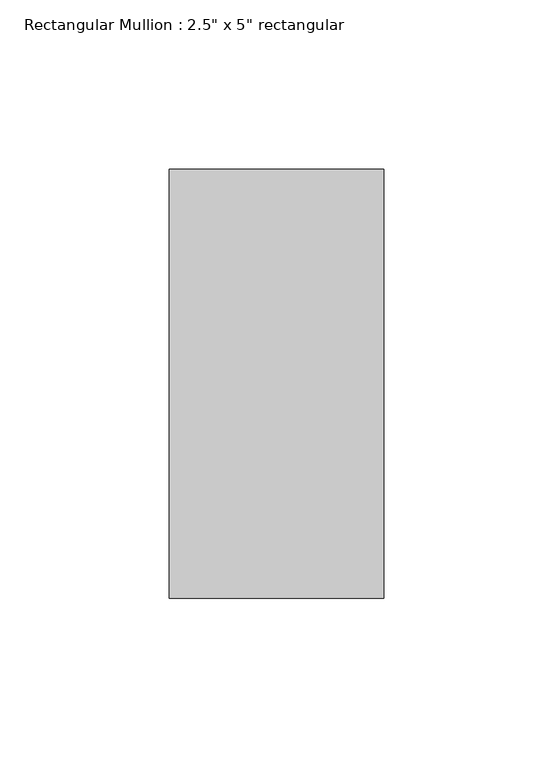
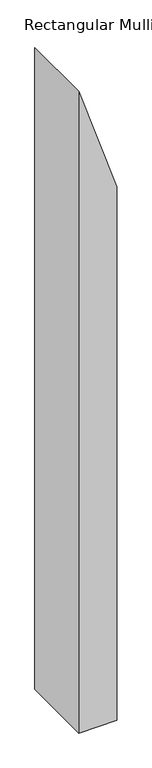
"""IFC4 building model written with IfcOpenShell, lengths in millimetres: member geometry."""

from ifc_helpers import new_model, si_unit, frame, origin, place, context, project, spatial, polyline, outline, extrude, source, transform, mapped, element, save


def member_659f2ef3(model_context):
    return source(origin(), model_context, "Body", "SweptSolid", [
        extrude(outline(polyline([(-296.0546314, 31.75), (-105.5546314, -31.75), (-1238.25, -31.75), (-1238.25, 31.75), (-296.0546314, 31.75)])), frame((0.0, -63.5, 0.0), z_axis=(0.0, 1.0, 0.0), x_axis=(0.0, 0.0, 1.0)), (0.0, 0.0, 1.0), 127.0),
    ])


if __name__ == "__main__":
    model = new_model("IFC4")
    model_context = context("Model", 3, world=origin())
    ifc_project = project(units=[si_unit("LENGTHUNIT", "METRE", prefix="MILLI")], contexts=[model_context])
    site = spatial("IfcSite", under=ifc_project)
    building = spatial("IfcBuilding", under=site)
    placement = place(None, origin())
    member_shape = member_659f2ef3(model_context)
    element("IfcMember", 1, ObjectType="Rectangular Mullion : 2.5\" x 5\" rectangular", at=placement, inside=building, context=model_context, shape_type="MappedRepresentation", body=[
        mapped(member_shape, transform((0.0, 0.0, 0.0), x_axis=(1.0, 0.0, 0.0), y_axis=(0.0, 1.0, 0.0), z_axis=(0.0, 0.0, 1.0))),
    ])
    save(model, "model.ifc")
